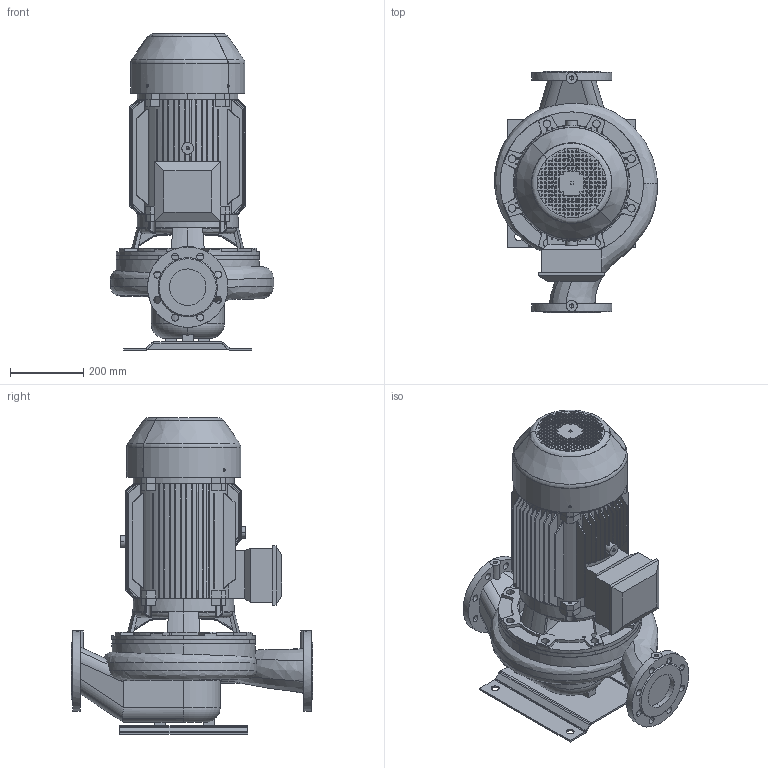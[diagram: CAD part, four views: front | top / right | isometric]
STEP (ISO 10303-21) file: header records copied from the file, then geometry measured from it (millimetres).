
FILE_DESCRIPTION(('STEP AP214'),'1');
FILE_NAME('export.stp','2018-05-29T07:55:31',(' '),(' '),'Spatial InterOp 3D',' ',' ');
FILE_SCHEMA(('AUTOMOTIVE_DESIGN { 1 0 10303 214 1 1 1 1 }'));
Length unit declared in the file: millimetre
Products named in the file (11): V_MKP166G2F31; R200366; R200574; R200573; R200587; W_L100S4150-KP166; V_TLL100SAL1202; V_PPL100S; P100496; P100495; P100342
Assembly tree (11 placements, depth 3):
  W_L100S4150-KP166
    V_MKP166G2F31
      R200366
      R200574
      R200573
      R200587
    V_TLL100SAL1202
    V_PPL100S
    P100496
      P100495  x2
      P100342
Bounding box: 446.6 x 660 x 867 mm (x, y, z)
Volume: 32260730.2 mm3; surface area: 3737281.9 mm2
Topology: 9 solids, 9 shells, 1842 faces, 5300 edges, 3456 vertices
Faces by surface type: plane 1228, cylinder 346, cone 184, torus 46, bspline 38
Entity records: 97861 total; most frequent: CARTESIAN_POINT 19094, ORIENTED_EDGE 10556, DIRECTION 9308, EDGE_CURVE 5278, STYLED_ITEM 4931, PRESENTATION_STYLE_ASSIGNMENT 4931, COLOUR_RGB 4931, LINE 3468
